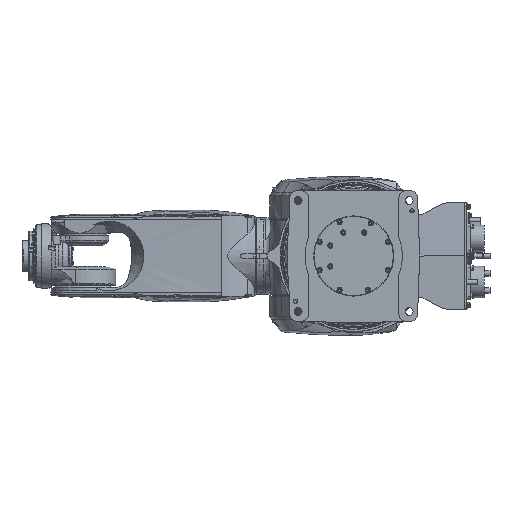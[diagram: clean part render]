
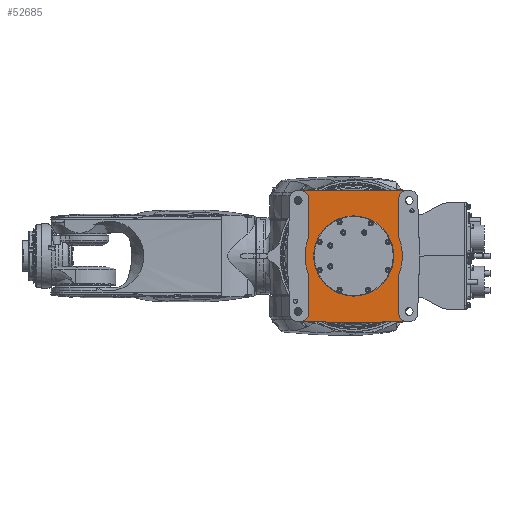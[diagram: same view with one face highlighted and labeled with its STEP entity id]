
A CAD part, front view. The second image highlights one B-rep face of the part: STEP entity #52685.
In plain terms, the highlighted planar face has unit normal (0, -1, 0).
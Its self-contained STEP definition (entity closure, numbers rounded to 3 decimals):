
#1095=LINE('',#93092,#5254);
#1119=LINE('',#93172,#5278);
#1262=LINE('',#93572,#5421);
#1325=LINE('',#93937,#5484);
#1326=LINE('',#93939,#5485);
#1327=LINE('',#93941,#5486);
#1328=LINE('',#93944,#5487);
#1329=LINE('',#93948,#5488);
#1330=LINE('',#93953,#5489);
#1331=LINE('',#93957,#5490);
#5254=VECTOR('',#77171,1000.);
#5278=VECTOR('',#77235,1000.);
#5421=VECTOR('',#77506,1000.);
#5484=VECTOR('',#77755,1000.);
#5485=VECTOR('',#77756,1000.);
#5486=VECTOR('',#77757,1000.);
#5487=VECTOR('',#77760,1000.);
#5488=VECTOR('',#77763,1000.);
#5489=VECTOR('',#77768,1000.);
#5490=VECTOR('',#77771,1000.);
#9456=PLANE('',#71494);
#11646=CIRCLE('',#71495,10.);
#11647=CIRCLE('',#71496,70.21);
#11648=CIRCLE('',#71497,10.);
#11649=CIRCLE('',#71498,10.);
#11650=CIRCLE('',#71499,70.21);
#11651=CIRCLE('',#71500,10.);
#11652=CIRCLE('',#71501,57.8);
#14325=ORIENTED_EDGE('',*,*,#29125,.F.);
#14326=ORIENTED_EDGE('',*,*,#29254,.T.);
#14327=ORIENTED_EDGE('',*,*,#29255,.F.);
#14328=ORIENTED_EDGE('',*,*,#29256,.F.);
#14329=ORIENTED_EDGE('',*,*,#28940,.F.);
#14330=ORIENTED_EDGE('',*,*,#29257,.T.);
#14331=ORIENTED_EDGE('',*,*,#29258,.F.);
#14332=ORIENTED_EDGE('',*,*,#29259,.F.);
#14333=ORIENTED_EDGE('',*,*,#29260,.F.);
#14334=ORIENTED_EDGE('',*,*,#29261,.T.);
#14335=ORIENTED_EDGE('',*,*,#28900,.F.);
#14336=ORIENTED_EDGE('',*,*,#29262,.T.);
#14337=ORIENTED_EDGE('',*,*,#29263,.F.);
#14338=ORIENTED_EDGE('',*,*,#29264,.F.);
#14339=ORIENTED_EDGE('',*,*,#29265,.F.);
#14340=ORIENTED_EDGE('',*,*,#29266,.T.);
#14341=ORIENTED_EDGE('',*,*,#29267,.F.);
#28900=EDGE_CURVE('',#36416,#36417,#1095,.T.);
#28940=EDGE_CURVE('',#36453,#36454,#1119,.T.);
#29125=EDGE_CURVE('',#36633,#36634,#1262,.T.);
#29254=EDGE_CURVE('',#36633,#36719,#1325,.T.);
#29255=EDGE_CURVE('',#36720,#36719,#1326,.T.);
#29256=EDGE_CURVE('',#36454,#36720,#1327,.T.);
#29257=EDGE_CURVE('',#36453,#36721,#11646,.T.);
#29258=EDGE_CURVE('',#36722,#36721,#1328,.T.);
#29259=EDGE_CURVE('',#36723,#36722,#11647,.T.);
#29260=EDGE_CURVE('',#36724,#36723,#1329,.T.);
#29261=EDGE_CURVE('',#36724,#36417,#11648,.T.);
#29262=EDGE_CURVE('',#36416,#36725,#11649,.T.);
#29263=EDGE_CURVE('',#36726,#36725,#1330,.T.);
#29264=EDGE_CURVE('',#36727,#36726,#11650,.T.);
#29265=EDGE_CURVE('',#36728,#36727,#1331,.T.);
#29266=EDGE_CURVE('',#36728,#36634,#11651,.T.);
#29267=EDGE_CURVE('',#36729,#36729,#11652,.F.);
#36416=VERTEX_POINT('',#93091);
#36417=VERTEX_POINT('',#93093);
#36453=VERTEX_POINT('',#93173);
#36454=VERTEX_POINT('',#93174);
#36633=VERTEX_POINT('',#93571);
#36634=VERTEX_POINT('',#93573);
#36719=VERTEX_POINT('',#93938);
#36720=VERTEX_POINT('',#93940);
#36721=VERTEX_POINT('',#93943);
#36722=VERTEX_POINT('',#93945);
#36723=VERTEX_POINT('',#93947);
#36724=VERTEX_POINT('',#93949);
#36725=VERTEX_POINT('',#93952);
#36726=VERTEX_POINT('',#93954);
#36727=VERTEX_POINT('',#93956);
#36728=VERTEX_POINT('',#93958);
#36729=VERTEX_POINT('',#93961);
#42822=EDGE_LOOP('',(#14325,#14326,#14327,#14328,#14329,#14330,#14331,#14332,
#14333,#14334,#14335,#14336,#14337,#14338,#14339,#14340));
#42823=EDGE_LOOP('',(#14341));
#47490=FACE_BOUND('',#42822,.T.);
#47491=FACE_BOUND('',#42823,.T.);
#52685=ADVANCED_FACE('',(#47490,#47491),#9456,.F.);
#71494=AXIS2_PLACEMENT_3D('',#93936,#77753,#77754);
#71495=AXIS2_PLACEMENT_3D('',#93942,#77758,#77759);
#71496=AXIS2_PLACEMENT_3D('',#93946,#77761,#77762);
#71497=AXIS2_PLACEMENT_3D('',#93950,#77764,#77765);
#71498=AXIS2_PLACEMENT_3D('',#93951,#77766,#77767);
#71499=AXIS2_PLACEMENT_3D('',#93955,#77769,#77770);
#71500=AXIS2_PLACEMENT_3D('',#93959,#77772,#77773);
#71501=AXIS2_PLACEMENT_3D('',#93960,#77774,#77775);
#77171=DIRECTION('',(-1.,0.,0.));
#77235=DIRECTION('',(1.,0.,0.));
#77506=DIRECTION('',(1.,0.,0.));
#77753=DIRECTION('',(0.,1.,0.));
#77754=DIRECTION('',(0.,0.,1.));
#77755=DIRECTION('',(0.,0.,1.));
#77756=DIRECTION('',(1.,0.,0.));
#77757=DIRECTION('',(0.,0.,1.));
#77758=DIRECTION('',(0.,1.,0.));
#77759=DIRECTION('',(1.,0.,0.));
#77760=DIRECTION('',(0.,0.,1.));
#77761=DIRECTION('',(0.,1.,0.));
#77762=DIRECTION('',(1.,0.,0.));
#77763=DIRECTION('',(0.,0.,1.));
#77764=DIRECTION('',(0.,1.,0.));
#77765=DIRECTION('',(1.,0.,0.));
#77766=DIRECTION('',(0.,1.,0.));
#77767=DIRECTION('',(1.,0.,0.));
#77768=DIRECTION('',(0.,0.,-1.));
#77769=DIRECTION('',(0.,1.,0.));
#77770=DIRECTION('',(1.,0.,0.));
#77771=DIRECTION('',(0.,0.,-1.));
#77772=DIRECTION('',(0.,1.,0.));
#77773=DIRECTION('',(1.,0.,0.));
#77774=DIRECTION('',(0.,1.,0.));
#77775=DIRECTION('',(0.,0.,1.));
#93091=CARTESIAN_POINT('',(75.21,6.,-94.));
#93092=CARTESIAN_POINT('',(82.061,6.,-94.));
#93093=CARTESIAN_POINT('',(-75.21,6.,-94.));
#93172=CARTESIAN_POINT('',(-82.061,6.,94.));
#93173=CARTESIAN_POINT('',(-75.21,6.,94.));
#93174=CARTESIAN_POINT('',(-41.,6.,94.));
#93571=CARTESIAN_POINT('',(41.,6.,94.));
#93572=CARTESIAN_POINT('',(-82.061,6.,94.));
#93573=CARTESIAN_POINT('',(75.21,6.,94.));
#93936=CARTESIAN_POINT('',(75.21,6.,84.));
#93937=CARTESIAN_POINT('',(41.,6.,75.5));
#93938=CARTESIAN_POINT('',(41.,6.,95.5));
#93939=CARTESIAN_POINT('',(-41.,6.,95.5));
#93940=CARTESIAN_POINT('',(-41.,6.,95.5));
#93941=CARTESIAN_POINT('',(-41.,6.,75.5));
#93942=CARTESIAN_POINT('',(-75.21,6.,84.));
#93943=CARTESIAN_POINT('',(-65.21,6.,84.));
#93944=CARTESIAN_POINT('',(-65.21,6.,26.021));
#93945=CARTESIAN_POINT('',(-65.21,6.,26.021));
#93946=CARTESIAN_POINT('',(0.,6.,0.));
#93947=CARTESIAN_POINT('',(-65.21,6.,-26.021));
#93948=CARTESIAN_POINT('',(-65.21,6.,-84.));
#93949=CARTESIAN_POINT('',(-65.21,6.,-84.));
#93950=CARTESIAN_POINT('',(-75.21,6.,-84.));
#93951=CARTESIAN_POINT('',(75.21,6.,-84.));
#93952=CARTESIAN_POINT('',(65.21,6.,-84.));
#93953=CARTESIAN_POINT('',(65.21,6.,-26.021));
#93954=CARTESIAN_POINT('',(65.21,6.,-26.021));
#93955=CARTESIAN_POINT('',(0.,6.,0.));
#93956=CARTESIAN_POINT('',(65.21,6.,26.021));
#93957=CARTESIAN_POINT('',(65.21,6.,84.));
#93958=CARTESIAN_POINT('',(65.21,6.,84.));
#93959=CARTESIAN_POINT('',(75.21,6.,84.));
#93960=CARTESIAN_POINT('',(0.,6.,0.));
#93961=CARTESIAN_POINT('',(0.,6.,57.8));
